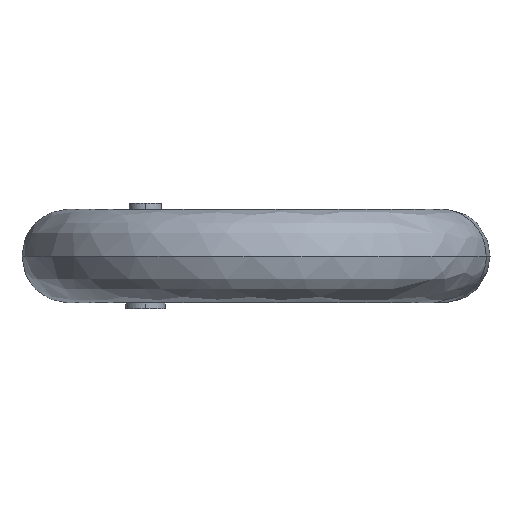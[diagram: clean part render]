
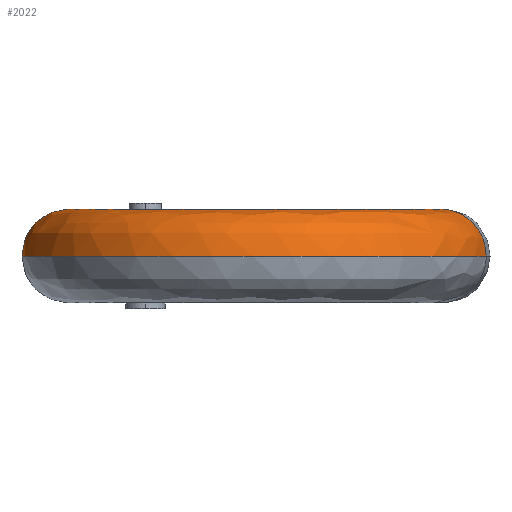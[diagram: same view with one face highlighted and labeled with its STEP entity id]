
A CAD part, left-side view. The second image highlights one B-rep face of the part: STEP entity #2022.
In plain terms, the highlighted free-form (B-spline) face has degree [3, 3] with [7, 4] control points.
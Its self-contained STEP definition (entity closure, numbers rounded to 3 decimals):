
#248 = CARTESIAN_POINT ( 'NONE',  ( -42.184, 19.633, 0. ) ) ;
#596 = CARTESIAN_POINT ( 'NONE',  ( -49.816, -19.633, 0. ) ) ;
#717 =( BOUNDED_CURVE ( )  B_SPLINE_CURVE ( 3, ( #718, #719, #720, #721, #722, #723, #724 ),
 .UNSPECIFIED., .F., .T. ) 
 B_SPLINE_CURVE_WITH_KNOTS ( ( 4, 3, 4 ),
 ( 0.021, 0.5, 0.979 ),
 .UNSPECIFIED. ) 
 CURVE ( )  GEOMETRIC_REPRESENTATION_ITEM ( )  RATIONAL_B_SPLINE_CURVE ( ( 0.974, 0.79, 0.799, 1., 0.799, 0.79, 0.974 ) ) 
 REPRESENTATION_ITEM ( '' )  );
#718 = CARTESIAN_POINT ( 'NONE',  ( -49.816, -19.633, 0. ) ) ;
#719 = CARTESIAN_POINT ( 'NONE',  ( -49.816, -19.633, 2.356 ) ) ;
#720 = CARTESIAN_POINT ( 'NONE',  ( -49.498, -17.994, 4. ) ) ;
#721 = CARTESIAN_POINT ( 'NONE',  ( -49.053, -15.706, 4. ) ) ;
#722 = CARTESIAN_POINT ( 'NONE',  ( -48.608, -13.418, 4. ) ) ;
#723 = CARTESIAN_POINT ( 'NONE',  ( -48.29, -11.78, 2.356 ) ) ;
#724 = CARTESIAN_POINT ( 'NONE',  ( -48.29, -11.78, 0. ) ) ;
#776 = CIRCLE ( 'NONE', #777, 20. ) ;
#777 = AXIS2_PLACEMENT_3D ( 'NONE', #778, #779, #780 ) ;
#778 = CARTESIAN_POINT ( 'NONE',  ( -46., 0., 0. ) ) ;
#779 = DIRECTION ( 'NONE',  ( 0., 0., -1. ) ) ;
#780 = DIRECTION ( 'NONE',  ( -0.191, -0.982, 0. ) ) ;
#789 = CIRCLE ( 'NONE', #790, 12. ) ;
#790 = AXIS2_PLACEMENT_3D ( 'NONE', #791, #792, #793 ) ;
#791 = CARTESIAN_POINT ( 'NONE',  ( -46., 0., 0. ) ) ;
#792 = DIRECTION ( 'NONE',  ( 0., 0., 1. ) ) ;
#793 = DIRECTION ( 'NONE',  ( -0.191, -0.982, 0. ) ) ;
#1286 = CARTESIAN_POINT ( 'NONE',  ( -43.6, 12.349, 2.074 ) ) ;
#1826 = ORIENTED_EDGE ( 'NONE', *, *, #2931, .F. ) ;
#1859 = VERTEX_POINT ( 'NONE', #3556 ) ;
#1903 = EDGE_CURVE ( 'NONE', #3540, #3979, #717, .T. ) ;
#1938 = ORIENTED_EDGE ( 'NONE', *, *, #3843, .F. ) ;
#2022 = ADVANCED_FACE ( 'NONE', ( #3245 ), #3246, .F. ) ;
#2036 = EDGE_CURVE ( 'NONE', #3321, #2715, #3442, .T. ) ;
#2072 = ORIENTED_EDGE ( 'NONE', *, *, #2036, .F. ) ;
#2143 = EDGE_CURVE ( 'NONE', #1859, #3979, #789, .T. ) ;
#2148 = ORIENTED_EDGE ( 'NONE', *, *, #1903, .T. ) ;
#2178 = ORIENTED_EDGE ( 'NONE', *, *, #2143, .F. ) ;
#2211 = EDGE_LOOP ( 'NONE', ( #1938, #2148, #2178, #1826, #2072 ) ) ;
#2646 = CARTESIAN_POINT ( 'NONE',  ( -48.29, -11.78, 0. ) ) ;
#2715 = VERTEX_POINT ( 'NONE', #1286 ) ;
#2931 = EDGE_CURVE ( 'NONE', #2715, #1859, #3518, .T. ) ;
#3245 = FACE_OUTER_BOUND ( 'NONE', #2211, .T. ) ;
#3246 =( BOUNDED_SURFACE ( )  B_SPLINE_SURFACE ( 3, 3, ( 
 ( #3247, #3248, #3250, #3251 ),
 ( #3252, #3253, #3254, #3255 ),
 ( #3256, #3257, #3258, #3259 ),
 ( #3260, #3261, #3262, #3263 ),
 ( #3264, #3265, #3267, #3268 ),
 ( #3269, #3270, #3271, #3272 ),
 ( #3273, #3274, #3275, #3276 ) ),
 .UNSPECIFIED., .F., .F., .T. ) 
 B_SPLINE_SURFACE_WITH_KNOTS ( ( 4, 3, 4 ),
 ( 4, 4 ),
 ( 0.021, 0.5, 0.979 ),
 ( 0., 1. ),
 .UNSPECIFIED. ) 
 GEOMETRIC_REPRESENTATION_ITEM ( )  RATIONAL_B_SPLINE_SURFACE ( (
 ( 0.974, 0.325, 0.325, 0.974),
 ( 0.79, 0.263, 0.263, 0.79),
 ( 0.799, 0.266, 0.266, 0.799),
 ( 1., 0.333, 0.333, 1.),
 ( 0.799, 0.266, 0.266, 0.799),
 ( 0.79, 0.263, 0.263, 0.79),
 ( 0.974, 0.325, 0.325, 0.974) ) ) 
 REPRESENTATION_ITEM ( '' )  SURFACE ( )  );
#3247 = CARTESIAN_POINT ( 'NONE',  ( -42.184, 19.633, 0. ) ) ;
#3248 = CARTESIAN_POINT ( 'NONE',  ( -81.449, 27.265, 0. ) ) ;
#3250 = CARTESIAN_POINT ( 'NONE',  ( -89.081, -12., 0. ) ) ;
#3251 = CARTESIAN_POINT ( 'NONE',  ( -49.816, -19.633, 0. ) ) ;
#3252 = CARTESIAN_POINT ( 'NONE',  ( -42.184, 19.633, 2.356 ) ) ;
#3253 = CARTESIAN_POINT ( 'NONE',  ( -81.449, 27.265, 2.356 ) ) ;
#3254 = CARTESIAN_POINT ( 'NONE',  ( -89.081, -12., 2.356 ) ) ;
#3255 = CARTESIAN_POINT ( 'NONE',  ( -49.816, -19.633, 2.356 ) ) ;
#3256 = CARTESIAN_POINT ( 'NONE',  ( -42.502, 17.994, 4. ) ) ;
#3257 = CARTESIAN_POINT ( 'NONE',  ( -78.49, 24.989, 4. ) ) ;
#3258 = CARTESIAN_POINT ( 'NONE',  ( -85.485, -10.998, 4. ) ) ;
#3259 = CARTESIAN_POINT ( 'NONE',  ( -49.498, -17.994, 4. ) ) ;
#3260 = CARTESIAN_POINT ( 'NONE',  ( -42.947, 15.706, 4. ) ) ;
#3261 = CARTESIAN_POINT ( 'NONE',  ( -74.359, 21.812, 4. ) ) ;
#3262 = CARTESIAN_POINT ( 'NONE',  ( -80.465, -9.6, 4. ) ) ;
#3263 = CARTESIAN_POINT ( 'NONE',  ( -49.053, -15.706, 4. ) ) ;
#3264 = CARTESIAN_POINT ( 'NONE',  ( -43.392, 13.418, 4. ) ) ;
#3265 = CARTESIAN_POINT ( 'NONE',  ( -70.228, 18.635, 4. ) ) ;
#3267 = CARTESIAN_POINT ( 'NONE',  ( -75.445, -8.202, 4. ) ) ;
#3268 = CARTESIAN_POINT ( 'NONE',  ( -48.608, -13.418, 4. ) ) ;
#3269 = CARTESIAN_POINT ( 'NONE',  ( -43.71, 11.78, 2.356 ) ) ;
#3270 = CARTESIAN_POINT ( 'NONE',  ( -67.269, 16.359, 2.356 ) ) ;
#3271 = CARTESIAN_POINT ( 'NONE',  ( -71.849, -7.2, 2.356 ) ) ;
#3272 = CARTESIAN_POINT ( 'NONE',  ( -48.29, -11.78, 2.356 ) ) ;
#3273 = CARTESIAN_POINT ( 'NONE',  ( -43.71, 11.78, 0. ) ) ;
#3274 = CARTESIAN_POINT ( 'NONE',  ( -67.269, 16.359, 0. ) ) ;
#3275 = CARTESIAN_POINT ( 'NONE',  ( -71.849, -7.2, 0. ) ) ;
#3276 = CARTESIAN_POINT ( 'NONE',  ( -48.29, -11.78, 0. ) ) ;
#3321 = VERTEX_POINT ( 'NONE', #248 ) ;
#3442 = CIRCLE ( 'NONE', #3443, 4. ) ;
#3443 = AXIS2_PLACEMENT_3D ( 'NONE', #3444, #3445, #3446 ) ;
#3444 = CARTESIAN_POINT ( 'NONE',  ( -42.947, 15.706, 0. ) ) ;
#3445 = DIRECTION ( 'NONE',  ( 0.982, -0.191, 0. ) ) ;
#3446 = DIRECTION ( 'NONE',  ( 0.191, 0.982, 0. ) ) ;
#3518 = B_SPLINE_CURVE_WITH_KNOTS ( 'NONE', 3,
 ( #3519, #3520, #3521, #3524, #3525, #3526, #3527, #3528, #3529, #3530 ),
 .UNSPECIFIED., .F., .F.,
 ( 4, 2, 2, 2, 4 ),
 ( 0., 0.001, 0.001, 0.002, 0.002 ),
 .UNSPECIFIED. ) ;
#3519 = CARTESIAN_POINT ( 'NONE',  ( -43.6, 12.349, 2.074 ) ) ;
#3520 = CARTESIAN_POINT ( 'NONE',  ( -43.722, 12.285, 1.933 ) ) ;
#3521 = CARTESIAN_POINT ( 'NONE',  ( -43.836, 12.227, 1.785 ) ) ;
#3524 = CARTESIAN_POINT ( 'NONE',  ( -44.043, 12.12, 1.471 ) ) ;
#3525 = CARTESIAN_POINT ( 'NONE',  ( -44.137, 12.071, 1.304 ) ) ;
#3526 = CARTESIAN_POINT ( 'NONE',  ( -44.294, 11.991, 0.954 ) ) ;
#3527 = CARTESIAN_POINT ( 'NONE',  ( -44.356, 11.958, 0.773 ) ) ;
#3528 = CARTESIAN_POINT ( 'NONE',  ( -44.442, 11.914, 0.396 ) ) ;
#3529 = CARTESIAN_POINT ( 'NONE',  ( -44.466, 11.902, 0.198 ) ) ;
#3530 = CARTESIAN_POINT ( 'NONE',  ( -44.466, 11.902, 0. ) ) ;
#3540 = VERTEX_POINT ( 'NONE', #596 ) ;
#3556 = CARTESIAN_POINT ( 'NONE',  ( -44.466, 11.902, 0. ) ) ;
#3843 = EDGE_CURVE ( 'NONE', #3540, #3321, #776, .T. ) ;
#3979 = VERTEX_POINT ( 'NONE', #2646 ) ;
